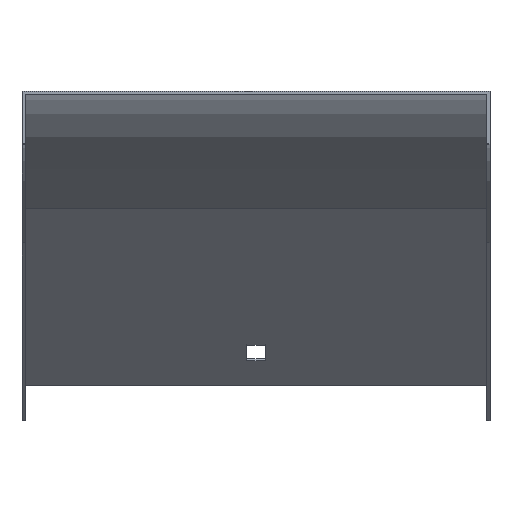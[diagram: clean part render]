
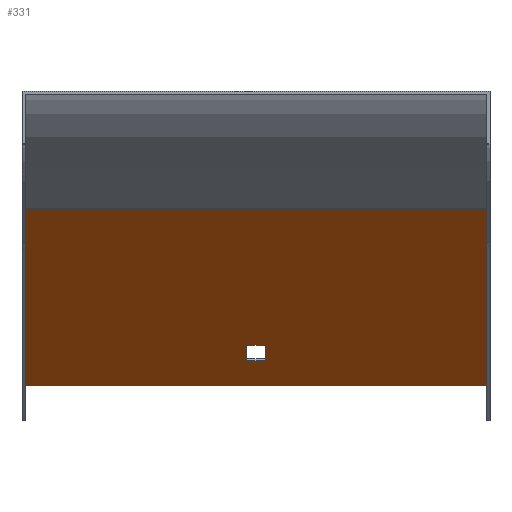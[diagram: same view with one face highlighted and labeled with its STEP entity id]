
A CAD part, top view. The second image highlights one B-rep face of the part: STEP entity #331.
In plain terms, the highlighted planar face has unit normal (0, -0.707, 0.707).
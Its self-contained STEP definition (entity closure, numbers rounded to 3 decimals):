
#9 = VERTEX_POINT ( 'NONE', #252 ) ;
#23 = CARTESIAN_POINT ( 'NONE',  ( 75., -95.185, -227.383 ) ) ;
#27 = CARTESIAN_POINT ( 'NONE',  ( -75., -37.612, -169.809 ) ) ;
#40 = LINE ( 'NONE', #451, #347 ) ;
#58 = ORIENTED_EDGE ( 'NONE', *, *, #141, .T. ) ;
#70 = EDGE_LOOP ( 'NONE', ( #290, #861, #405, #730 ) ) ;
#85 = LINE ( 'NONE', #27, #272 ) ;
#95 = CARTESIAN_POINT ( 'NONE',  ( -3., -37.612, -169.809 ) ) ;
#97 = EDGE_CURVE ( 'NONE', #463, #846, #631, .T. ) ;
#103 = CARTESIAN_POINT ( 'NONE',  ( 76., -37.612, -169.809 ) ) ;
#106 = CARTESIAN_POINT ( 'NONE',  ( 76., -95.185, -227.383 ) ) ;
#122 = PLANE ( 'NONE',  #632 ) ;
#139 = LINE ( 'NONE', #263, #800 ) ;
#141 = EDGE_CURVE ( 'NONE', #9, #267, #767, .T. ) ;
#144 = LINE ( 'NONE', #796, #361 ) ;
#179 = DIRECTION ( 'NONE',  ( 1., 0., 0. ) ) ;
#182 = DIRECTION ( 'NONE',  ( 0., -0.707, 0.707 ) ) ;
#187 = DIRECTION ( 'NONE',  ( 0., -0.707, -0.707 ) ) ;
#226 = EDGE_CURVE ( 'NONE', #396, #638, #144, .T. ) ;
#229 = DIRECTION ( 'NONE',  ( 0., 0.707, 0.707 ) ) ;
#234 = DIRECTION ( 'NONE',  ( 0., 0.707, 0.707 ) ) ;
#237 = EDGE_CURVE ( 'NONE', #846, #396, #139, .T. ) ;
#252 = CARTESIAN_POINT ( 'NONE',  ( 75., -37.612, -169.809 ) ) ;
#254 = CARTESIAN_POINT ( 'NONE',  ( -3., -87.053, -219.251 ) ) ;
#256 = VECTOR ( 'NONE', #179, 1000. ) ;
#263 = CARTESIAN_POINT ( 'NONE',  ( 3., -37.612, -169.809 ) ) ;
#267 = VERTEX_POINT ( 'NONE', #862 ) ;
#272 = VECTOR ( 'NONE', #229, 1000. ) ;
#290 = ORIENTED_EDGE ( 'NONE', *, *, #226, .T. ) ;
#300 = DIRECTION ( 'NONE',  ( -1., 0., 0. ) ) ;
#303 = DIRECTION ( 'NONE',  ( 0., 0.707, 0.707 ) ) ;
#312 = EDGE_CURVE ( 'NONE', #752, #679, #519, .T. ) ;
#327 = FACE_OUTER_BOUND ( 'NONE', #764, .T. ) ;
#331 = ADVANCED_FACE ( 'NONE', ( #327, #726 ), #122, .T. ) ;
#347 = VECTOR ( 'NONE', #303, 1000. ) ;
#361 = VECTOR ( 'NONE', #477, 1000. ) ;
#378 = EDGE_CURVE ( 'NONE', #752, #9, #40, .T. ) ;
#396 = VERTEX_POINT ( 'NONE', #506 ) ;
#405 = ORIENTED_EDGE ( 'NONE', *, *, #97, .T. ) ;
#415 = CARTESIAN_POINT ( 'NONE',  ( -3., -82.104, -214.301 ) ) ;
#445 = EDGE_CURVE ( 'NONE', #679, #267, #85, .T. ) ;
#451 = CARTESIAN_POINT ( 'NONE',  ( 75., -37.612, -169.809 ) ) ;
#463 = VERTEX_POINT ( 'NONE', #415 ) ;
#477 = DIRECTION ( 'NONE',  ( -1., 0., 0. ) ) ;
#482 = ORIENTED_EDGE ( 'NONE', *, *, #445, .F. ) ;
#506 = CARTESIAN_POINT ( 'NONE',  ( 3., -87.053, -219.251 ) ) ;
#519 = LINE ( 'NONE', #106, #662 ) ;
#534 = EDGE_CURVE ( 'NONE', #638, #463, #678, .T. ) ;
#537 = DIRECTION ( 'NONE',  ( 0., -0.707, -0.707 ) ) ;
#548 = ORIENTED_EDGE ( 'NONE', *, *, #378, .T. ) ;
#631 = LINE ( 'NONE', #647, #256 ) ;
#632 = AXIS2_PLACEMENT_3D ( 'NONE', #703, #182, #187 ) ;
#638 = VERTEX_POINT ( 'NONE', #254 ) ;
#647 = CARTESIAN_POINT ( 'NONE',  ( 76., -82.104, -214.301 ) ) ;
#661 = DIRECTION ( 'NONE',  ( -1., 0., 0. ) ) ;
#662 = VECTOR ( 'NONE', #661, 1000. ) ;
#678 = LINE ( 'NONE', #95, #716 ) ;
#679 = VERTEX_POINT ( 'NONE', #724 ) ;
#703 = CARTESIAN_POINT ( 'NONE',  ( 76., -37.612, -169.809 ) ) ;
#716 = VECTOR ( 'NONE', #234, 1000. ) ;
#724 = CARTESIAN_POINT ( 'NONE',  ( -75., -95.185, -227.383 ) ) ;
#726 = FACE_BOUND ( 'NONE', #70, .T. ) ;
#729 = ORIENTED_EDGE ( 'NONE', *, *, #312, .F. ) ;
#730 = ORIENTED_EDGE ( 'NONE', *, *, #237, .T. ) ;
#752 = VERTEX_POINT ( 'NONE', #23 ) ;
#764 = EDGE_LOOP ( 'NONE', ( #482, #729, #548, #58 ) ) ;
#767 = LINE ( 'NONE', #103, #851 ) ;
#796 = CARTESIAN_POINT ( 'NONE',  ( 76., -87.053, -219.251 ) ) ;
#800 = VECTOR ( 'NONE', #537, 1000. ) ;
#846 = VERTEX_POINT ( 'NONE', #858 ) ;
#851 = VECTOR ( 'NONE', #300, 1000. ) ;
#858 = CARTESIAN_POINT ( 'NONE',  ( 3., -82.104, -214.301 ) ) ;
#861 = ORIENTED_EDGE ( 'NONE', *, *, #534, .T. ) ;
#862 = CARTESIAN_POINT ( 'NONE',  ( -75., -37.612, -169.809 ) ) ;
